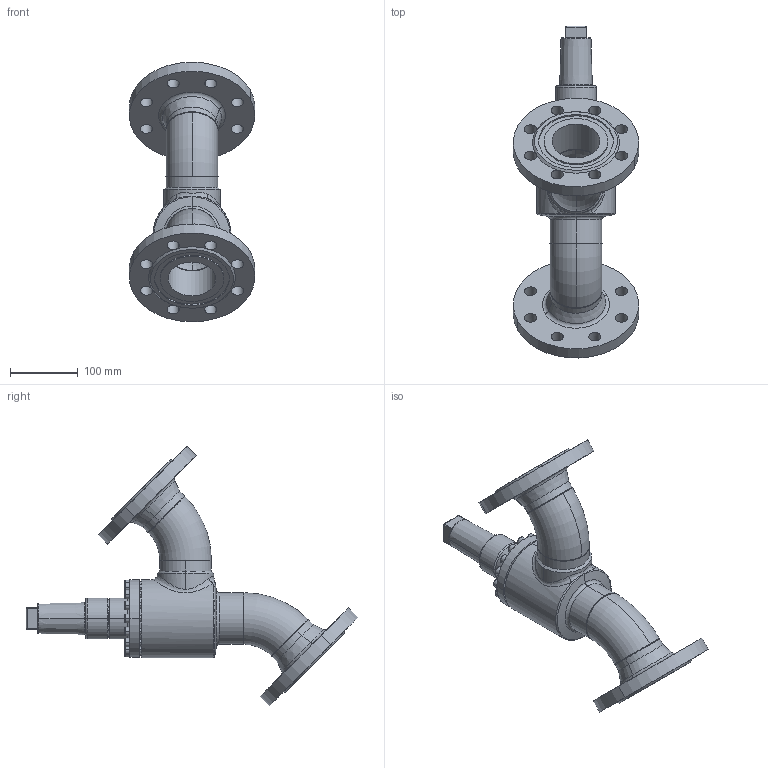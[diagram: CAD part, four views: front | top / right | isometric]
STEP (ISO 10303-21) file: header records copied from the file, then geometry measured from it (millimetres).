
FILE_DESCRIPTION (( 'STEP AP214' ), '1' );
FILE_NAME ('RVA29320D17-DN065_DIN-FL-N_PS40.STEP', '2006-04-28T05:37:14', ( 'Herr Grams' ), ( 'AWP GmbH' ), 'SwSTEP 2.0', 'SolidWorks 2002296', '' );
FILE_SCHEMA (( 'AUTOMOTIVE_DESIGN' ));
Length unit declared in the file: millimetre
Products named in the file (14): RVA29320D17-DN065_DIN-FL-N_PS40; RVA29300K17_Deck+Schr-DN065_Standard; Deckel29300K17-DN65_Standard; Zylinderschraube-DIN912_M 8x 25; Gehäuse-kpl16320-DN065_DIN_PS40_Standard; Gehäuse-kpl16300-DN065_R1_Standard; Gehäuse16400-DN065_Standard; Rohrbogen 45°_Rohrbogen-DN065-45°; bead-DN065-3_Standard; bead-DN065-2_Standard; Flansch-DIN-Nut_PS40_DIN-Flansch-DN065_PS40-Nut; bead-DN065-7_Standard; bead-DN065-6_Standard; Kappe16402_DN040-65_Standard
Assembly tree (30 placements, depth 4):
  RVA29320D17-DN065_DIN-FL-N_PS40
    Kappe16402_DN040-65_Standard
    RVA29300K17_Deck+Schr-DN065_Standard
      Zylinderschraube-DIN912_M 8x 25  x16
      Deckel29300K17-DN65_Standard
    Gehäuse-kpl16320-DN065_DIN_PS40_Standard
      Flansch-DIN-Nut_PS40_DIN-Flansch-DN065_PS40-Nut  x2
      bead-DN065-7_Standard
      bead-DN065-6_Standard
      Gehäuse-kpl16300-DN065_R1_Standard
        Gehäuse16400-DN065_Standard
        Rohrbogen 45°_Rohrbogen-DN065-45°  x2
        bead-DN065-3_Standard
        bead-DN065-2_Standard
Bounding box: 184.82 x 488.88 x 382.4 mm (x, y, z)
Volume: 2093089.8 mm3; surface area: 458282 mm2
Topology: 27 solids, 27 shells, 551 faces, 1270 edges, 810 vertices
Faces by surface type: plane 214, cylinder 202, torus 59, cone 58, bspline 18
Entity records: 19850 total; most frequent: CARTESIAN_POINT 13330, DIRECTION 1286, ORIENTED_EDGE 1148, EDGE_CURVE 574, AXIS2_PLACEMENT_3D 557, VERTEX_POINT 368, EDGE_LOOP 312, CIRCLE 302
